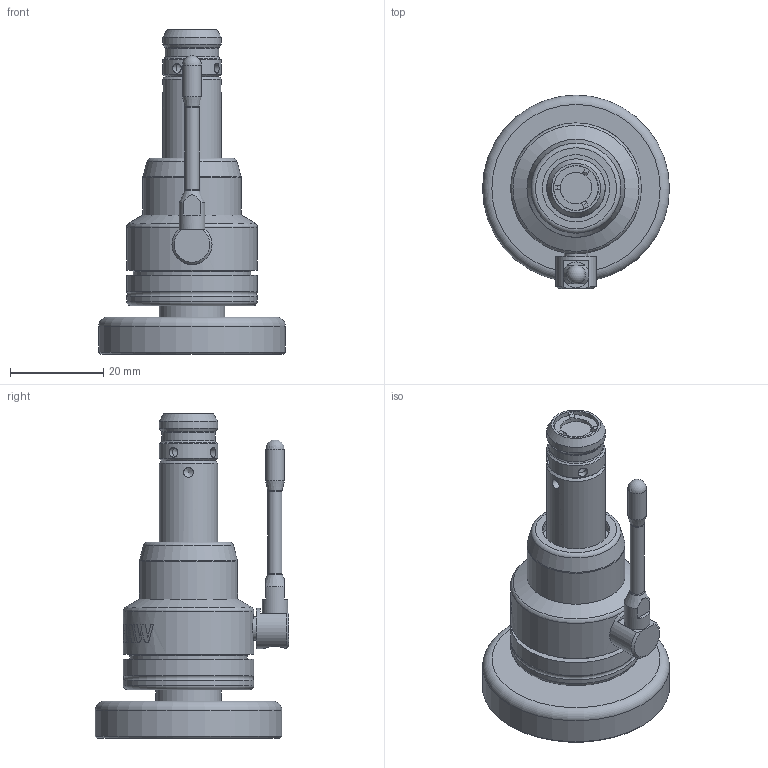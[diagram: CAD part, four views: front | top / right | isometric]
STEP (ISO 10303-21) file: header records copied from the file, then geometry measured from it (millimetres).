
FILE_DESCRIPTION(/* description */ (''),/* implementation_level */ '2;1');
FILE_NAME(/* name */ '',/* time_stamp */ '2011-12-19T13:42:43+00:00',/* author */ (''),/* organization */ (''),/* preprocessor_version */ 'ST-DEVELOPER v11',/* originating_system */ 'SIEMENS PLM Software NX 7.5',/* authorisation */ '');
FILE_SCHEMA (('AUTOMOTIVE_DESIGN { 1 0 10303 214 1 1 1 1 }'));
Length unit declared in the file: millimetre
Products named in the file (1): js1383C5g5j0
Bounding box: 40 x 41.5 x 69.55 mm (x, y, z)
Volume: 28482.8 mm3; surface area: 10446 mm2
Topology: 1 solids, 1 shells, 281 faces, 735 edges, 485 vertices
Faces by surface type: plane 124, cylinder 68, extrusion 48, cone 25, torus 12, sphere 4
Full cylindrical faces by diameter (mm): 1.8 x2, 2.1 x6, 3 x1, 3.7 x1, 4 x1, 4.3 x1, 4.985 x1, 5.2 x1, 5.5 x1, 6.75 x1, 8.6 x1, 8.9 x1, 9.5 x1, 9.63 x1, 11.5 x1, 12.5 x3, 14 x1, 14.3 x1, 14.4 x1, 18.1 x1, 21 x1, 25.2 x1, 28 x3, 40 x1
Entity records: 11370 total; most frequent: CARTESIAN_POINT 3041, DIRECTION 1266, ORIENTED_EDGE 1228, EDGE_CURVE 614, AXIS2_PLACEMENT_3D 487, VERTEX_POINT 445, EDGE_LOOP 384, VECTOR 292
